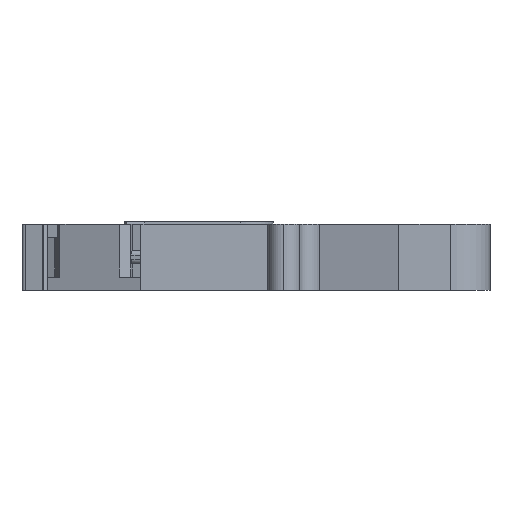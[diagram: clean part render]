
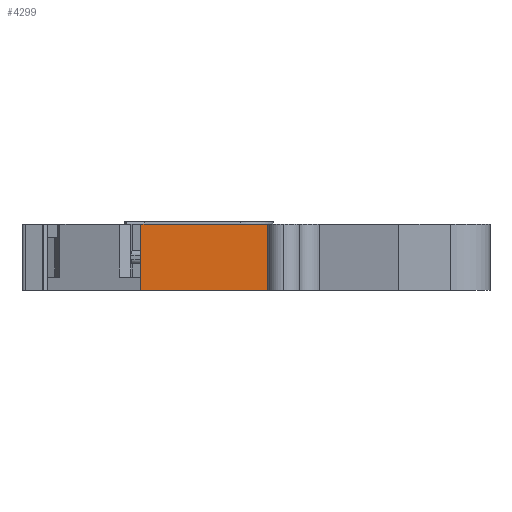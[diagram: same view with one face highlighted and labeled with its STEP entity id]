
A CAD part, left-side view. The second image highlights one B-rep face of the part: STEP entity #4299.
In plain terms, the highlighted planar face has unit normal (-1, 0, 0).
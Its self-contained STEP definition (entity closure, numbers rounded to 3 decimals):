
#10 = VECTOR ( 'NONE', #10790, 1000. ) ;
#34 = DIRECTION ( 'NONE',  ( 0., -1., 0. ) ) ;
#184 = CARTESIAN_POINT ( 'NONE',  ( 11.8, 55.6, 5. ) ) ;
#1102 = DIRECTION ( 'NONE',  ( 1., 0., 0. ) ) ;
#1864 = CARTESIAN_POINT ( 'NONE',  ( 11.8, 55.6, 0. ) ) ;
#1987 = VERTEX_POINT ( 'NONE', #11179 ) ;
#2306 = DIRECTION ( 'NONE',  ( 0., 0., 1. ) ) ;
#2586 = ORIENTED_EDGE ( 'NONE', *, *, #6749, .T. ) ;
#2611 = EDGE_CURVE ( 'NONE', #3985, #5567, #3806, .T. ) ;
#3123 = ORIENTED_EDGE ( 'NONE', *, *, #2611, .F. ) ;
#3166 = LINE ( 'NONE', #9346, #3484 ) ;
#3288 = CARTESIAN_POINT ( 'NONE',  ( 11.8, 55.6, 5. ) ) ;
#3484 = VECTOR ( 'NONE', #2306, 1000. ) ;
#3558 = DIRECTION ( 'NONE',  ( 0., 0., 1. ) ) ;
#3561 = ORIENTED_EDGE ( 'NONE', *, *, #5389, .T. ) ;
#3806 = LINE ( 'NONE', #8420, #10 ) ;
#3985 = VERTEX_POINT ( 'NONE', #4757 ) ;
#4299 = ADVANCED_FACE ( 'NONE', ( #7073 ), #4459, .F. ) ;
#4410 = CARTESIAN_POINT ( 'NONE',  ( 11.8, 65.2, 0. ) ) ;
#4459 = PLANE ( 'NONE',  #8226 ) ;
#4757 = CARTESIAN_POINT ( 'NONE',  ( 11.8, 65.2, 5. ) ) ;
#5222 = VECTOR ( 'NONE', #34, 1000. ) ;
#5389 = EDGE_CURVE ( 'NONE', #1987, #5567, #11110, .T. ) ;
#5419 = VERTEX_POINT ( 'NONE', #4410 ) ;
#5567 = VERTEX_POINT ( 'NONE', #6663 ) ;
#5636 = EDGE_LOOP ( 'NONE', ( #3123, #7458, #2586, #3561 ) ) ;
#6279 = VECTOR ( 'NONE', #3558, 1000. ) ;
#6663 = CARTESIAN_POINT ( 'NONE',  ( 11.8, 55.6, 5. ) ) ;
#6749 = EDGE_CURVE ( 'NONE', #5419, #1987, #9688, .T. ) ;
#7073 = FACE_OUTER_BOUND ( 'NONE', #5636, .T. ) ;
#7458 = ORIENTED_EDGE ( 'NONE', *, *, #10333, .F. ) ;
#8226 = AXIS2_PLACEMENT_3D ( 'NONE', #184, #1102, #10591 ) ;
#8420 = CARTESIAN_POINT ( 'NONE',  ( 11.8, 54.4, 5. ) ) ;
#9346 = CARTESIAN_POINT ( 'NONE',  ( 11.8, 65.2, 5. ) ) ;
#9688 = LINE ( 'NONE', #1864, #5222 ) ;
#10333 = EDGE_CURVE ( 'NONE', #5419, #3985, #3166, .T. ) ;
#10591 = DIRECTION ( 'NONE',  ( 0., 0., -1. ) ) ;
#10790 = DIRECTION ( 'NONE',  ( 0., -1., 0. ) ) ;
#11110 = LINE ( 'NONE', #3288, #6279 ) ;
#11179 = CARTESIAN_POINT ( 'NONE',  ( 11.8, 55.6, 0. ) ) ;
